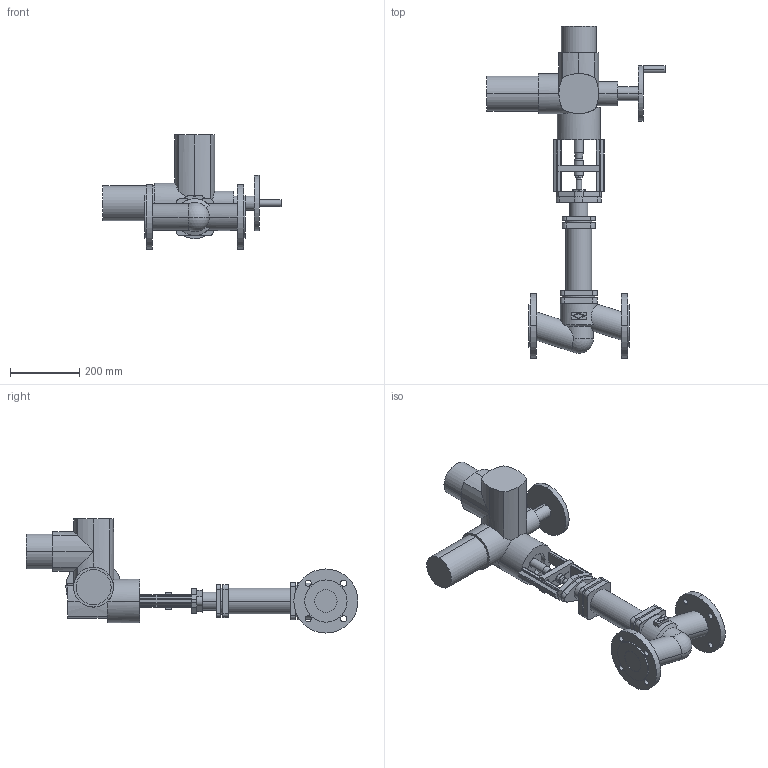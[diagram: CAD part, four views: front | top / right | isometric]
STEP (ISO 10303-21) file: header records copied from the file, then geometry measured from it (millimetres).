
FILE_DESCRIPTION(('OneSpaceDesigner STEP Export'),'2;1');
FILE_NAME('c000003142.stp','2007-01-19T11:42:42',(''),(''),'OneSpace Designer STEP processor for AP214 (Solid Model)','OneSpace Designer 14.00B 27-May-2006 (C) CoCreate Software GmbH','');
FILE_SCHEMA(('AUTOMOTIVE_DESIGN { 1 0 10303 214 1 1 1 1 }'));
Length unit declared in the file: millimetre
Products named in the file (2): 1; 2
Bounding box: 514 x 958 x 329.5 mm (x, y, z)
Volume: 12961147.1 mm3; surface area: 780246.3 mm2
Topology: 2 solids, 2 shells, 301 faces, 774 edges, 497 vertices
Faces by surface type: cylinder 150, plane 143, cone 6, sphere 2
Entity records: 9805 total; most frequent: CARTESIAN_POINT 2051, ORIENTED_EDGE 1544, DIRECTION 1329, SURFACE_CURVE 772, EDGE_CURVE 772, VERTEX_POINT 497, AXIS2_PLACEMENT_3D 448, VECTOR 433
